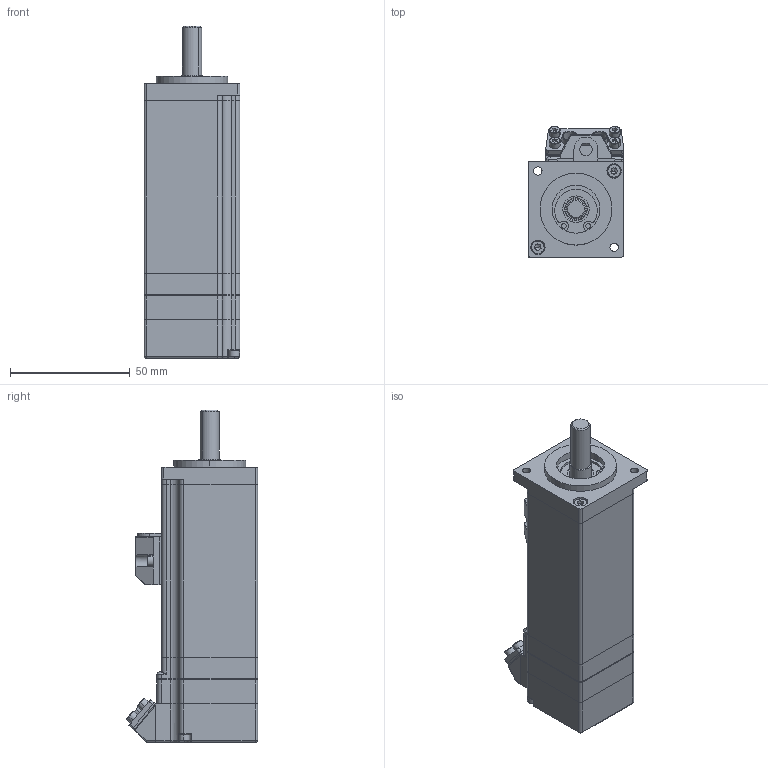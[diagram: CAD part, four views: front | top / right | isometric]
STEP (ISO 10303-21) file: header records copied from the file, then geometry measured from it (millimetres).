
FILE_DESCRIPTION (( 'STEP AP203' ), '1' );
FILE_NAME ('SMH40-530D10EBL-1增量旋变三维光轴.STEP', '2020-03-18T05:46:18', ( 'user' ), ( '' ), 'SwSTEP 2.0', 'SolidWorks 2016', '' );
FILE_SCHEMA (( 'CONFIG_CONTROL_DESIGN' ));
Length unit declared in the file: millimetre
Products named in the file (1): SMH40-530D10EBL-1增量旋变三维光轴
Bounding box: 40 x 54.65 x 138.4 mm (x, y, z)
Volume: 79138.3 mm3; surface area: 60037.5 mm2
Topology: 24 solids, 24 shells, 1014 faces, 2769 edges, 1764 vertices
Faces by surface type: cylinder 426, plane 383, torus 106, cone 54, sphere 43, bspline 2
Entity records: 32745 total; most frequent: CARTESIAN_POINT 7001, DIRECTION 5592, ORIENTED_EDGE 5298, EDGE_CURVE 2649, AXIS2_PLACEMENT_3D 2203, VERTEX_POINT 1702, CIRCLE 1190, LINE 1186
